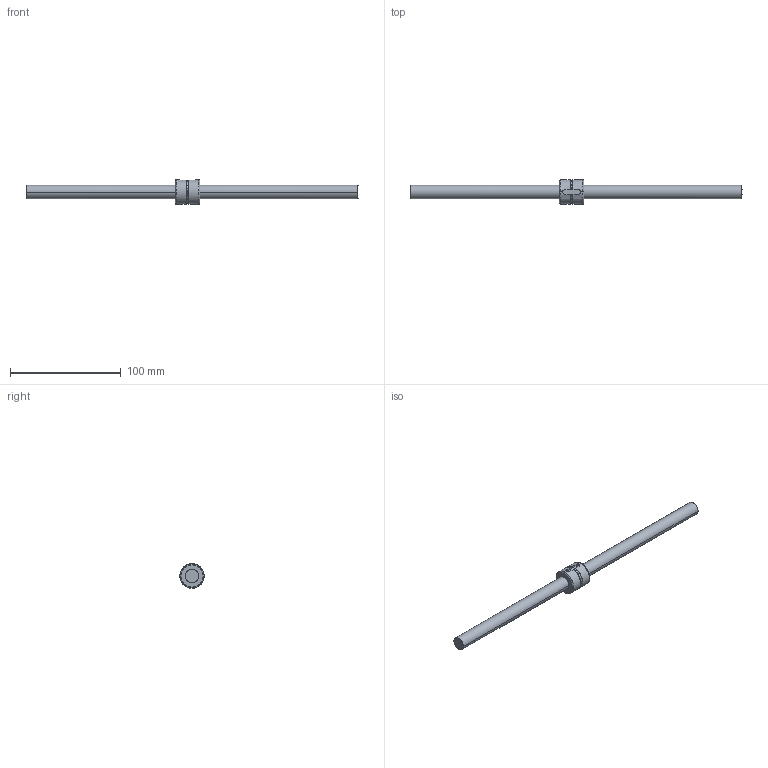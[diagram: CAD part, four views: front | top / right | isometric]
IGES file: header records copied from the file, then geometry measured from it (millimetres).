
Global section: file name: No Iges File Name specified; native system: AutoDesk Inventor R10; preprocessor: AutoDesk Inventor Iges Exporter R10; author: No Author specified; organization: No Organization specified; date: 20101224.155014; units: millimetre
Bounding box: 300 x 22 x 22 mm (x, y, z)
Surface area: 14454.5 mm2 (no closed solid volume)
Topology: 0 solids, 0 shells, 27 faces, 268 edges, 268 vertices
Faces by surface type: bspline 27
